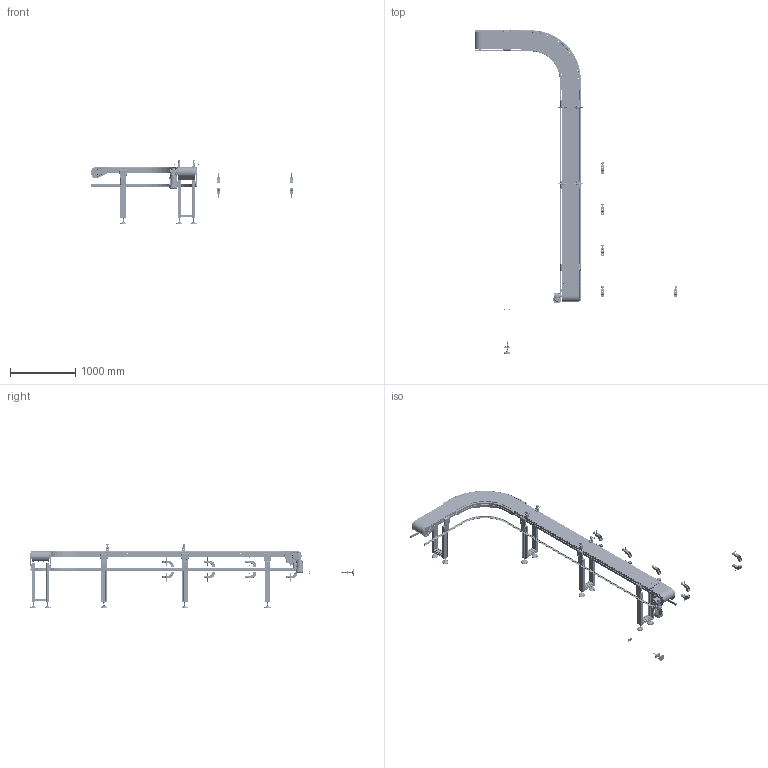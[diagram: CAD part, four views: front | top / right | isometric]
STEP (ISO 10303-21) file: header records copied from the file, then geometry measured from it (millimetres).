
FILE_DESCRIPTION (( 'STEP AP203' ), '1' );
FILE_NAME ('NASTRO_2010.step', '2026-04-27T15:14:51', ( 'Utente Windows' ), ( '' ), 'SwSTEP 2.0', 'SolidWorks 2024', '' );
FILE_SCHEMA (( 'CONFIG_CONTROL_DESIGN' ));
Length unit declared in the file: millimetre
Products named in the file (92): JFM-2023-11; 2010.000.016; 2010.1000.P.1B49.BR; 2010.000.030_Default<A macchina>; 0408UNI7380-A2; 084.712.002; 084.305.041; 2010.000.072; 2010.000.026; 0814UNI5923-A2; 6205_2RS_BOMB_AE_AF0; CATENA_LDX; 084.711.004; PFL205-SUPPORTO; 084.302.000 DADI MOLLA 13x13-1_084.302.009; 2010.000.001_Default<A macchina>; 2010.000.044; NASTRO_2010; Circlip DIN 471 - 20 x 1.2_Circlip DIN 471 - 20 x 1.2; CH05P_DX; 084.302.000 DADI ALUSIC 13x13-1_084.302.004; 6205_2RS_AI_AF0; 084.301.000 VITI ALUSIC_084.301.004; 2010.000.145_2000.1200.404; 2010.000.009_Default<A macchina>; 6205_2RS_CAGE; 2010.000.002; 084.307.006; CHIAVETTE_A 8x7x30 UNI 6604-69; 2010.000.004; 2010.000.073; 55401; 0820UNI5739-A2; 2010.000.007; PIEDE_K750; 0820ISO2342-A2; 2010.000.015; 084.808.013; CHIAVETTE_A 8x7x20 UNI 6604-69; 2010.1000.P.490_SX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
Assembly tree (359 placements, depth 4):
  NASTRO_2010
    K1000_1_Default<A macchina>
    K1000_7_Default<A macchina>
    2010.1000.P.1B49.BR
      2010.000.003
      2010.000.004
      2010.000.029
      084.808.013
      2010.000.049
      2010.000.010_Default<A macchina>
      0408UNI5933-A2  x18
      2010.000.007
      0408UNI7380-A2  x8
      084.307.006  x2
        084.307.006
        0814UNI5923-A2
      0816UNI7380-A2  x6
      2010.000.016
      2010.000.011
      2010.000.026  x4
      084.802.062
      0820ISO2342-A2
      55401
        TO_1
      084.301.000 VITI ALUSIC_084.301.004  x4
      084.302.000 DADI ALUSIC 13x13 SX_084.302.004  x4
      084.803.017
      0612UNI5931-A2  x4
      2010.000.033_Default<A macchina>
      2010.000.032_Default<A macchina>
      2010.000.005  x2
      0832UNI6593-A2
      0820UNI5739-A2
      CHIAVETTE_A 8x7x20 UNI 6604-69  x2
      2010.000.014
      CHIAVETTE_A 8x7x30 UNI 6604-69
      0612UNI5739-A2  x4
      25UNI7435-A2  x5
      6205-2RSBOMB  x2
        6205_2RS_AI_AF0
        6205_2RS_CAGE
        6205_2RS_BOMB_AE_AF0
        6205_2RS_SFERA
        6205_2RS_SEAL
      PFL205-SUPPORTO  x4
      0812UNI5739-A2  x4
    2010.1000.P.490_SX
      2010.000.131
      2010.000.130
      084.111.001 L255_Default<A macchina>  x5
      084.307.006  x4
        084.307.006
        0814UNI5923-A2
      084.305.041  x10
      2010.000.145_2000.1200.404  x2
      0612UNI5933  x20
      084.302.000 DADI MOLLA 13x13-1_084.302.009  x20
      VITI TCEI UNI 5931_M8x20 UNI 5931  x20
    2010.1000.P.200
      2010.000.001_Default<A macchina>
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Bounding box: 3111.94 x 4981.31 x 987.5 mm (x, y, z)
Volume: 56226989.1 mm3; surface area: 25468729 mm2
Topology: 704 solids, 704 shells, 37774 faces, 97078 edges, 61155 vertices
Faces by surface type: plane 15901, cylinder 10986, bspline 4041, cone 3649, torus 2481, sphere 716
Entity records: 555720 total; most frequent: CARTESIAN_POINT 208359, ORIENTED_EDGE 72572, DIRECTION 65247, EDGE_CURVE 36286, AXIS2_PLACEMENT_3D 23574, VERTEX_POINT 22733, LINE 18099, VECTOR 18099
